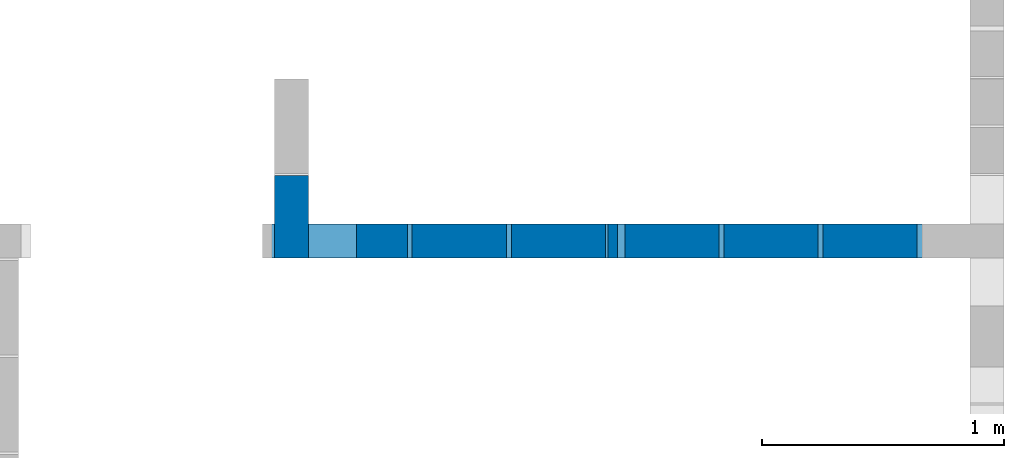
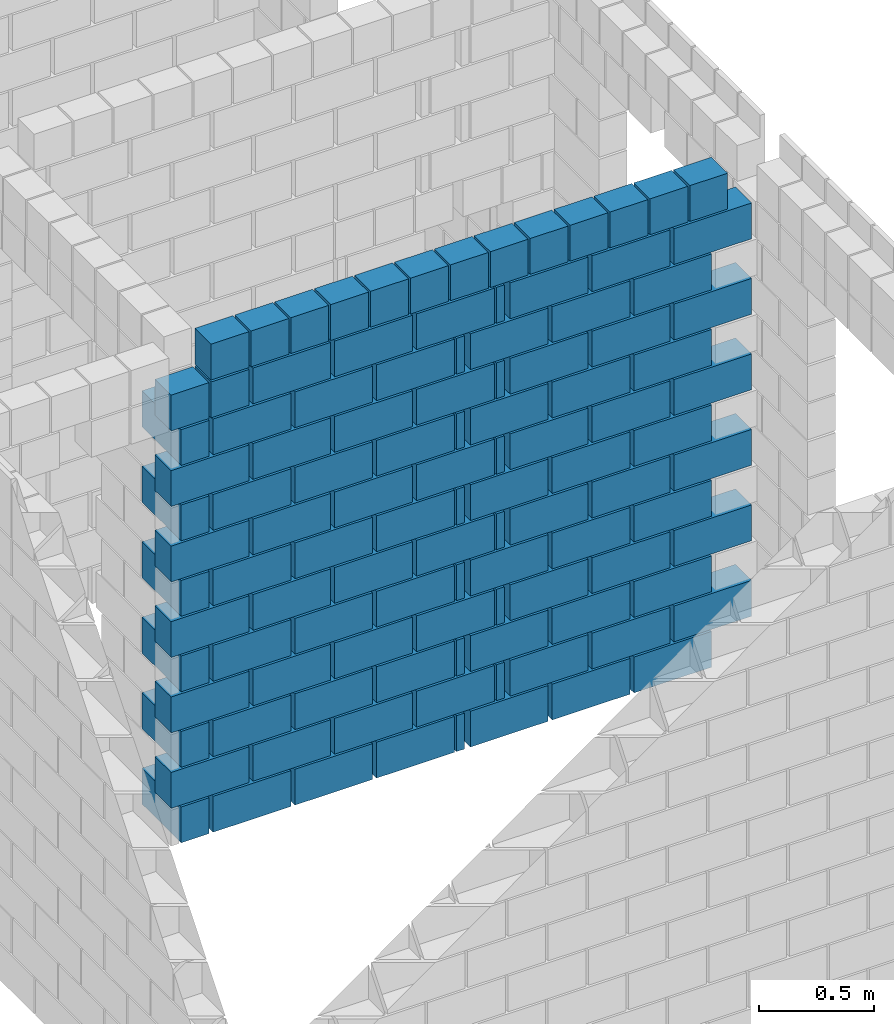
# One storey, part 5 of 12: 2 walls.
"""IFC4 building model written with IfcOpenShell, lengths in centimetres."""

from ifc_helpers import new_model, si_unit, derived_unit, frame, origin, origin_with_axes, origin_2d_with_axis, place, context, project, spatial, rectangle, extrude, element, save


model = new_model("IFC4")

# Units and contexts
model_context = context("Model", 3, precision=1e-05, world=origin_with_axes(), identifier="Body")
ifc_project = project(units=[si_unit("LENGTHUNIT", "METRE", prefix="CENTI"), si_unit("VOLUMEUNIT", "CUBIC_METRE"), si_unit("AREAUNIT", "SQUARE_METRE"), si_unit("POWERUNIT", "WATT"), si_unit("LUMINOUSFLUXUNIT", "LUMEN"), si_unit("ELECTRICCURRENTUNIT", "AMPERE"), si_unit("PRESSUREUNIT", "PASCAL", prefix="KILO"), si_unit("MASSUNIT", "GRAM", prefix="KILO"), si_unit("PLANEANGLEUNIT", "RADIAN"), derived_unit("VOLUMETRICFLOWRATEUNIT", [(si_unit("LENGTHUNIT", "METRE"), 3), (si_unit("TIMEUNIT", "SECOND"), -1)])], contexts=[model_context])

# Site, building, storey
site_placement = place(None, origin_with_axes())
site = spatial("IfcSite", under=ifc_project, at=site_placement)
building_placement = place(site_placement, origin())
building = spatial("IfcBuilding", under=site, at=building_placement)
storey_placement = place(building_placement, origin_with_axes())
storey = spatial("IfcBuildingStorey", under=building, at=storey_placement, Name="PISO", CompositionType="ELEMENT", Elevation=0.0)

# Walls
wall_1_placement = place(storey_placement, frame((411.51, 391.01, 239.0), z_axis=(0.0, 0.0, 1.0), x_axis=(1.0, 0.0, 0.0)))
element("IfcWall", 1, at=wall_1_placement, inside=storey, context=model_context, shape_type="SolidModel", body=[
    extrude(rectangle(XDim=34.0, YDim=14.0, at=origin_2d_with_axis()), frame((-7.5, 0.0, -239.0), z_axis=(0.0, 0.0, 1.0), x_axis=(0.0, 1.0, 0.0)), (0.0, 0.0, 1.0), 19.0),
    extrude(rectangle(XDim=39.0, YDim=14.0, at=origin_2d_with_axis()), frame((0.0, -10.0, -219.0), z_axis=(0.0, 0.0, 1.0), x_axis=(-1.0, 0.0, 0.0)), (0.0, 0.0, 1.0), 19.0),
    extrude(rectangle(XDim=34.0, YDim=14.0, at=origin_2d_with_axis()), frame((-7.5, 0.0, -199.0), z_axis=(0.0, 0.0, 1.0), x_axis=(0.0, 1.0, 0.0)), (0.0, 0.0, 1.0), 19.0),
    extrude(rectangle(XDim=39.0, YDim=14.0, at=origin_2d_with_axis()), frame((0.0, -10.0, -179.0), z_axis=(0.0, 0.0, 1.0), x_axis=(-1.0, 0.0, 0.0)), (0.0, 0.0, 1.0), 19.0),
    extrude(rectangle(XDim=34.0, YDim=14.0, at=origin_2d_with_axis()), frame((-7.5, 0.0, -159.0), z_axis=(0.0, 0.0, 1.0), x_axis=(0.0, 1.0, 0.0)), (0.0, 0.0, 1.0), 19.0),
    extrude(rectangle(XDim=39.0, YDim=14.0, at=origin_2d_with_axis()), frame((0.0, -10.0, -139.0), z_axis=(0.0, 0.0, 1.0), x_axis=(-1.0, 0.0, 0.0)), (0.0, 0.0, 1.0), 19.0),
    extrude(rectangle(XDim=34.0, YDim=14.0, at=origin_2d_with_axis()), frame((-7.5, 0.0, -119.0), z_axis=(0.0, 0.0, 1.0), x_axis=(0.0, 1.0, 0.0)), (0.0, 0.0, 1.0), 19.0),
    extrude(rectangle(XDim=39.0, YDim=14.0, at=origin_2d_with_axis()), frame((0.0, -10.0, -99.0), z_axis=(0.0, 0.0, 1.0), x_axis=(-1.0, 0.0, 0.0)), (0.0, 0.0, 1.0), 19.0),
    extrude(rectangle(XDim=34.0, YDim=14.0, at=origin_2d_with_axis()), frame((-7.5, 0.0, -79.0), z_axis=(0.0, 0.0, 1.0), x_axis=(0.0, 1.0, 0.0)), (0.0, 0.0, 1.0), 19.0),
    extrude(rectangle(XDim=39.0, YDim=14.0, at=origin_2d_with_axis()), frame((0.0, -10.0, -59.0), z_axis=(0.0, 0.0, 1.0), x_axis=(-1.0, 0.0, 0.0)), (0.0, 0.0, 1.0), 19.0),
    extrude(rectangle(XDim=34.0, YDim=14.0, at=origin_2d_with_axis()), frame((-7.5, 0.0, -39.0), z_axis=(0.0, 0.0, 1.0), x_axis=(0.0, 1.0, 0.0)), (0.0, 0.0, 1.0), 19.0),
    extrude(rectangle(XDim=19.0, YDim=14.0, at=origin_2d_with_axis()), frame((-10.0, -10.0, -19.0), z_axis=(0.0, 0.0, 1.0), x_axis=(-1.0, 0.0, 0.0)), (0.0, 0.0, 1.0), 19.0),
])
wall_2_placement = place(storey_placement, frame((547.51, 381.01, 259.0), z_axis=(0.0, 0.0, 1.0), x_axis=(1.0, 0.0, 0.0)))
element("IfcWall", 2, at=wall_2_placement, inside=storey, Name="PAR-PISO-6", context=model_context, shape_type="SolidModel", body=[
    extrude(rectangle(XDim=39.0, YDim=14.0, at=origin_2d_with_axis()), frame((-115.0, 0.0, -259.0), z_axis=(0.0, 0.0, 1.0), x_axis=(1.0, 0.0, 0.0)), (0.0, 0.0, 1.0), 19.0),
    extrude(rectangle(XDim=39.0, YDim=14.0, at=origin_2d_with_axis()), frame((-74.0, 0.0, -259.0), z_axis=(0.0, 0.0, 1.0), x_axis=(1.0, 0.0, 0.0)), (0.0, 0.0, 1.0), 19.0),
    extrude(rectangle(XDim=39.0, YDim=14.0, at=origin_2d_with_axis()), frame((-33.0, 0.0, -259.0), z_axis=(0.0, 0.0, 1.0), x_axis=(1.0, 0.0, 0.0)), (0.0, 0.0, 1.0), 19.0),
    extrude(rectangle(XDim=39.0, YDim=14.0, at=origin_2d_with_axis()), frame((14.0, 0.0, -259.0), z_axis=(0.0, 0.0, 1.0), x_axis=(1.0, 0.0, 0.0)), (0.0, 0.0, 1.0), 19.0),
    extrude(rectangle(XDim=39.0, YDim=14.0, at=origin_2d_with_axis()), frame((55.0, 0.0, -259.0), z_axis=(0.0, 0.0, 1.0), x_axis=(1.0, 0.0, 0.0)), (0.0, 0.0, 1.0), 19.0),
    extrude(rectangle(XDim=39.0, YDim=14.0, at=origin_2d_with_axis()), frame((96.0, 0.0, -259.0), z_axis=(0.0, 0.0, 1.0), x_axis=(1.0, 0.0, 0.0)), (0.0, 0.0, 1.0), 19.0),
    extrude(rectangle(XDim=4.0, YDim=14.0, at=origin_2d_with_axis()), frame((-10.5, 0.0, -259.0), z_axis=(0.0, 0.0, 1.0), x_axis=(1.0, 0.0, 0.0)), (0.0, 0.0, 1.0), 19.0),
    extrude(rectangle(XDim=39.0, YDim=14.0, at=origin_2d_with_axis()), frame((-95.0, 0.0, -239.0), z_axis=(0.0, 0.0, 1.0), x_axis=(1.0, 0.0, 0.0)), (0.0, 0.0, 1.0), 19.0),
    extrude(rectangle(XDim=39.0, YDim=14.0, at=origin_2d_with_axis()), frame((-54.0, 0.0, -239.0), z_axis=(0.0, 0.0, 1.0), x_axis=(1.0, 0.0, 0.0)), (0.0, 0.0, 1.0), 19.0),
    extrude(rectangle(XDim=39.0, YDim=14.0, at=origin_2d_with_axis()), frame((-13.0, 0.0, -239.0), z_axis=(0.0, 0.0, 1.0), x_axis=(1.0, 0.0, 0.0)), (0.0, 0.0, 1.0), 19.0),
    extrude(rectangle(XDim=39.0, YDim=14.0, at=origin_2d_with_axis()), frame((34.0, 0.0, -239.0), z_axis=(0.0, 0.0, 1.0), x_axis=(1.0, 0.0, 0.0)), (0.0, 0.0, 1.0), 19.0),
    extrude(rectangle(XDim=39.0, YDim=14.0, at=origin_2d_with_axis()), frame((75.0, 0.0, -239.0), z_axis=(0.0, 0.0, 1.0), x_axis=(1.0, 0.0, 0.0)), (0.0, 0.0, 1.0), 19.0),
    extrude(rectangle(XDim=39.0, YDim=14.0, at=origin_2d_with_axis()), frame((116.0, 0.0, -239.0), z_axis=(0.0, 0.0, 1.0), x_axis=(1.0, 0.0, 0.0)), (0.0, 0.0, 1.0), 19.0),
    extrude(rectangle(XDim=4.0, YDim=14.0, at=origin_2d_with_axis()), frame((9.5, 0.0, -239.0), z_axis=(0.0, 0.0, 1.0), x_axis=(1.0, 0.0, 0.0)), (0.0, 0.0, 1.0), 19.0),
    extrude(rectangle(XDim=39.0, YDim=14.0, at=origin_2d_with_axis()), frame((-115.0, 0.0, -219.0), z_axis=(0.0, 0.0, 1.0), x_axis=(1.0, 0.0, 0.0)), (0.0, 0.0, 1.0), 19.0),
    extrude(rectangle(XDim=39.0, YDim=14.0, at=origin_2d_with_axis()), frame((-74.0, 0.0, -219.0), z_axis=(0.0, 0.0, 1.0), x_axis=(1.0, 0.0, 0.0)), (0.0, 0.0, 1.0), 19.0),
    extrude(rectangle(XDim=39.0, YDim=14.0, at=origin_2d_with_axis()), frame((-33.0, 0.0, -219.0), z_axis=(0.0, 0.0, 1.0), x_axis=(1.0, 0.0, 0.0)), (0.0, 0.0, 1.0), 19.0),
    extrude(rectangle(XDim=39.0, YDim=14.0, at=origin_2d_with_axis()), frame((14.0, 0.0, -219.0), z_axis=(0.0, 0.0, 1.0), x_axis=(1.0, 0.0, 0.0)), (0.0, 0.0, 1.0), 19.0),
    extrude(rectangle(XDim=39.0, YDim=14.0, at=origin_2d_with_axis()), frame((55.0, 0.0, -219.0), z_axis=(0.0, 0.0, 1.0), x_axis=(1.0, 0.0, 0.0)), (0.0, 0.0, 1.0), 19.0),
    extrude(rectangle(XDim=39.0, YDim=14.0, at=origin_2d_with_axis()), frame((96.0, 0.0, -219.0), z_axis=(0.0, 0.0, 1.0), x_axis=(1.0, 0.0, 0.0)), (0.0, 0.0, 1.0), 19.0),
    extrude(rectangle(XDim=4.0, YDim=14.0, at=origin_2d_with_axis()), frame((-10.5, 0.0, -219.0), z_axis=(0.0, 0.0, 1.0), x_axis=(1.0, 0.0, 0.0)), (0.0, 0.0, 1.0), 19.0),
    extrude(rectangle(XDim=39.0, YDim=14.0, at=origin_2d_with_axis()), frame((-95.0, 0.0, -199.0), z_axis=(0.0, 0.0, 1.0), x_axis=(1.0, 0.0, 0.0)), (0.0, 0.0, 1.0), 19.0),
    extrude(rectangle(XDim=39.0, YDim=14.0, at=origin_2d_with_axis()), frame((-54.0, 0.0, -199.0), z_axis=(0.0, 0.0, 1.0), x_axis=(1.0, 0.0, 0.0)), (0.0, 0.0, 1.0), 19.0),
    extrude(rectangle(XDim=39.0, YDim=14.0, at=origin_2d_with_axis()), frame((-13.0, 0.0, -199.0), z_axis=(0.0, 0.0, 1.0), x_axis=(1.0, 0.0, 0.0)), (0.0, 0.0, 1.0), 19.0),
    extrude(rectangle(XDim=39.0, YDim=14.0, at=origin_2d_with_axis()), frame((34.0, 0.0, -199.0), z_axis=(0.0, 0.0, 1.0), x_axis=(1.0, 0.0, 0.0)), (0.0, 0.0, 1.0), 19.0),
    extrude(rectangle(XDim=39.0, YDim=14.0, at=origin_2d_with_axis()), frame((75.0, 0.0, -199.0), z_axis=(0.0, 0.0, 1.0), x_axis=(1.0, 0.0, 0.0)), (0.0, 0.0, 1.0), 19.0),
    extrude(rectangle(XDim=39.0, YDim=14.0, at=origin_2d_with_axis()), frame((116.0, 0.0, -199.0), z_axis=(0.0, 0.0, 1.0), x_axis=(1.0, 0.0, 0.0)), (0.0, 0.0, 1.0), 19.0),
    extrude(rectangle(XDim=4.0, YDim=14.0, at=origin_2d_with_axis()), frame((9.5, 0.0, -199.0), z_axis=(0.0, 0.0, 1.0), x_axis=(1.0, 0.0, 0.0)), (0.0, 0.0, 1.0), 19.0),
    extrude(rectangle(XDim=39.0, YDim=14.0, at=origin_2d_with_axis()), frame((-115.0, 0.0, -179.0), z_axis=(0.0, 0.0, 1.0), x_axis=(1.0, 0.0, 0.0)), (0.0, 0.0, 1.0), 19.0),
    extrude(rectangle(XDim=39.0, YDim=14.0, at=origin_2d_with_axis()), frame((-74.0, 0.0, -179.0), z_axis=(0.0, 0.0, 1.0), x_axis=(1.0, 0.0, 0.0)), (0.0, 0.0, 1.0), 19.0),
    extrude(rectangle(XDim=39.0, YDim=14.0, at=origin_2d_with_axis()), frame((-33.0, 0.0, -179.0), z_axis=(0.0, 0.0, 1.0), x_axis=(1.0, 0.0, 0.0)), (0.0, 0.0, 1.0), 19.0),
    extrude(rectangle(XDim=39.0, YDim=14.0, at=origin_2d_with_axis()), frame((14.0, 0.0, -179.0), z_axis=(0.0, 0.0, 1.0), x_axis=(1.0, 0.0, 0.0)), (0.0, 0.0, 1.0), 19.0),
    extrude(rectangle(XDim=39.0, YDim=14.0, at=origin_2d_with_axis()), frame((55.0, 0.0, -179.0), z_axis=(0.0, 0.0, 1.0), x_axis=(1.0, 0.0, 0.0)), (0.0, 0.0, 1.0), 19.0),
    extrude(rectangle(XDim=39.0, YDim=14.0, at=origin_2d_with_axis()), frame((96.0, 0.0, -179.0), z_axis=(0.0, 0.0, 1.0), x_axis=(1.0, 0.0, 0.0)), (0.0, 0.0, 1.0), 19.0),
    extrude(rectangle(XDim=4.0, YDim=14.0, at=origin_2d_with_axis()), frame((-10.5, 0.0, -179.0), z_axis=(0.0, 0.0, 1.0), x_axis=(1.0, 0.0, 0.0)), (0.0, 0.0, 1.0), 19.0),
    extrude(rectangle(XDim=39.0, YDim=14.0, at=origin_2d_with_axis()), frame((-95.0, 0.0, -159.0), z_axis=(0.0, 0.0, 1.0), x_axis=(1.0, 0.0, 0.0)), (0.0, 0.0, 1.0), 19.0),
    extrude(rectangle(XDim=39.0, YDim=14.0, at=origin_2d_with_axis()), frame((-54.0, 0.0, -159.0), z_axis=(0.0, 0.0, 1.0), x_axis=(1.0, 0.0, 0.0)), (0.0, 0.0, 1.0), 19.0),
    extrude(rectangle(XDim=39.0, YDim=14.0, at=origin_2d_with_axis()), frame((-13.0, 0.0, -159.0), z_axis=(0.0, 0.0, 1.0), x_axis=(1.0, 0.0, 0.0)), (0.0, 0.0, 1.0), 19.0),
    extrude(rectangle(XDim=39.0, YDim=14.0, at=origin_2d_with_axis()), frame((34.0, 0.0, -159.0), z_axis=(0.0, 0.0, 1.0), x_axis=(1.0, 0.0, 0.0)), (0.0, 0.0, 1.0), 19.0),
    extrude(rectangle(XDim=39.0, YDim=14.0, at=origin_2d_with_axis()), frame((75.0, 0.0, -159.0), z_axis=(0.0, 0.0, 1.0), x_axis=(1.0, 0.0, 0.0)), (0.0, 0.0, 1.0), 19.0),
    extrude(rectangle(XDim=39.0, YDim=14.0, at=origin_2d_with_axis()), frame((116.0, 0.0, -159.0), z_axis=(0.0, 0.0, 1.0), x_axis=(1.0, 0.0, 0.0)), (0.0, 0.0, 1.0), 19.0),
    extrude(rectangle(XDim=4.0, YDim=14.0, at=origin_2d_with_axis()), frame((9.5, 0.0, -159.0), z_axis=(0.0, 0.0, 1.0), x_axis=(1.0, 0.0, 0.0)), (0.0, 0.0, 1.0), 19.0),
    extrude(rectangle(XDim=39.0, YDim=14.0, at=origin_2d_with_axis()), frame((-115.0, 0.0, -139.0), z_axis=(0.0, 0.0, 1.0), x_axis=(1.0, 0.0, 0.0)), (0.0, 0.0, 1.0), 19.0),
    extrude(rectangle(XDim=39.0, YDim=14.0, at=origin_2d_with_axis()), frame((-74.0, 0.0, -139.0), z_axis=(0.0, 0.0, 1.0), x_axis=(1.0, 0.0, 0.0)), (0.0, 0.0, 1.0), 19.0),
    extrude(rectangle(XDim=39.0, YDim=14.0, at=origin_2d_with_axis()), frame((-33.0, 0.0, -139.0), z_axis=(0.0, 0.0, 1.0), x_axis=(1.0, 0.0, 0.0)), (0.0, 0.0, 1.0), 19.0),
    extrude(rectangle(XDim=39.0, YDim=14.0, at=origin_2d_with_axis()), frame((14.0, 0.0, -139.0), z_axis=(0.0, 0.0, 1.0), x_axis=(1.0, 0.0, 0.0)), (0.0, 0.0, 1.0), 19.0),
    extrude(rectangle(XDim=39.0, YDim=14.0, at=origin_2d_with_axis()), frame((55.0, 0.0, -139.0), z_axis=(0.0, 0.0, 1.0), x_axis=(1.0, 0.0, 0.0)), (0.0, 0.0, 1.0), 19.0),
    extrude(rectangle(XDim=39.0, YDim=14.0, at=origin_2d_with_axis()), frame((96.0, 0.0, -139.0), z_axis=(0.0, 0.0, 1.0), x_axis=(1.0, 0.0, 0.0)), (0.0, 0.0, 1.0), 19.0),
    extrude(rectangle(XDim=4.0, YDim=14.0, at=origin_2d_with_axis()), frame((-10.5, 0.0, -139.0), z_axis=(0.0, 0.0, 1.0), x_axis=(1.0, 0.0, 0.0)), (0.0, 0.0, 1.0), 19.0),
    extrude(rectangle(XDim=39.0, YDim=14.0, at=origin_2d_with_axis()), frame((-95.0, 0.0, -119.0), z_axis=(0.0, 0.0, 1.0), x_axis=(1.0, 0.0, 0.0)), (0.0, 0.0, 1.0), 19.0),
    extrude(rectangle(XDim=39.0, YDim=14.0, at=origin_2d_with_axis()), frame((-54.0, 0.0, -119.0), z_axis=(0.0, 0.0, 1.0), x_axis=(1.0, 0.0, 0.0)), (0.0, 0.0, 1.0), 19.0),
    extrude(rectangle(XDim=39.0, YDim=14.0, at=origin_2d_with_axis()), frame((-13.0, 0.0, -119.0), z_axis=(0.0, 0.0, 1.0), x_axis=(1.0, 0.0, 0.0)), (0.0, 0.0, 1.0), 19.0),
    extrude(rectangle(XDim=39.0, YDim=14.0, at=origin_2d_with_axis()), frame((34.0, 0.0, -119.0), z_axis=(0.0, 0.0, 1.0), x_axis=(1.0, 0.0, 0.0)), (0.0, 0.0, 1.0), 19.0),
    extrude(rectangle(XDim=39.0, YDim=14.0, at=origin_2d_with_axis()), frame((75.0, 0.0, -119.0), z_axis=(0.0, 0.0, 1.0), x_axis=(1.0, 0.0, 0.0)), (0.0, 0.0, 1.0), 19.0),
    extrude(rectangle(XDim=39.0, YDim=14.0, at=origin_2d_with_axis()), frame((116.0, 0.0, -119.0), z_axis=(0.0, 0.0, 1.0), x_axis=(1.0, 0.0, 0.0)), (0.0, 0.0, 1.0), 19.0),
    extrude(rectangle(XDim=4.0, YDim=14.0, at=origin_2d_with_axis()), frame((9.5, 0.0, -119.0), z_axis=(0.0, 0.0, 1.0), x_axis=(1.0, 0.0, 0.0)), (0.0, 0.0, 1.0), 19.0),
    extrude(rectangle(XDim=39.0, YDim=14.0, at=origin_2d_with_axis()), frame((-115.0, 0.0, -99.0), z_axis=(0.0, 0.0, 1.0), x_axis=(1.0, 0.0, 0.0)), (0.0, 0.0, 1.0), 19.0),
    extrude(rectangle(XDim=39.0, YDim=14.0, at=origin_2d_with_axis()), frame((-74.0, 0.0, -99.0), z_axis=(0.0, 0.0, 1.0), x_axis=(1.0, 0.0, 0.0)), (0.0, 0.0, 1.0), 19.0),
    extrude(rectangle(XDim=39.0, YDim=14.0, at=origin_2d_with_axis()), frame((-33.0, 0.0, -99.0), z_axis=(0.0, 0.0, 1.0), x_axis=(1.0, 0.0, 0.0)), (0.0, 0.0, 1.0), 19.0),
    extrude(rectangle(XDim=39.0, YDim=14.0, at=origin_2d_with_axis()), frame((14.0, 0.0, -99.0), z_axis=(0.0, 0.0, 1.0), x_axis=(1.0, 0.0, 0.0)), (0.0, 0.0, 1.0), 19.0),
    extrude(rectangle(XDim=39.0, YDim=14.0, at=origin_2d_with_axis()), frame((55.0, 0.0, -99.0), z_axis=(0.0, 0.0, 1.0), x_axis=(1.0, 0.0, 0.0)), (0.0, 0.0, 1.0), 19.0),
    extrude(rectangle(XDim=39.0, YDim=14.0, at=origin_2d_with_axis()), frame((96.0, 0.0, -99.0), z_axis=(0.0, 0.0, 1.0), x_axis=(1.0, 0.0, 0.0)), (0.0, 0.0, 1.0), 19.0),
    extrude(rectangle(XDim=4.0, YDim=14.0, at=origin_2d_with_axis()), frame((-10.5, 0.0, -99.0), z_axis=(0.0, 0.0, 1.0), x_axis=(1.0, 0.0, 0.0)), (0.0, 0.0, 1.0), 19.0),
    extrude(rectangle(XDim=39.0, YDim=14.0, at=origin_2d_with_axis()), frame((-95.0, 0.0, -79.0), z_axis=(0.0, 0.0, 1.0), x_axis=(1.0, 0.0, 0.0)), (0.0, 0.0, 1.0), 19.0),
    extrude(rectangle(XDim=39.0, YDim=14.0, at=origin_2d_with_axis()), frame((-54.0, 0.0, -79.0), z_axis=(0.0, 0.0, 1.0), x_axis=(1.0, 0.0, 0.0)), (0.0, 0.0, 1.0), 19.0),
    extrude(rectangle(XDim=39.0, YDim=14.0, at=origin_2d_with_axis()), frame((-13.0, 0.0, -79.0), z_axis=(0.0, 0.0, 1.0), x_axis=(1.0, 0.0, 0.0)), (0.0, 0.0, 1.0), 19.0),
    extrude(rectangle(XDim=39.0, YDim=14.0, at=origin_2d_with_axis()), frame((34.0, 0.0, -79.0), z_axis=(0.0, 0.0, 1.0), x_axis=(1.0, 0.0, 0.0)), (0.0, 0.0, 1.0), 19.0),
    extrude(rectangle(XDim=39.0, YDim=14.0, at=origin_2d_with_axis()), frame((75.0, 0.0, -79.0), z_axis=(0.0, 0.0, 1.0), x_axis=(1.0, 0.0, 0.0)), (0.0, 0.0, 1.0), 19.0),
    extrude(rectangle(XDim=39.0, YDim=14.0, at=origin_2d_with_axis()), frame((116.0, 0.0, -79.0), z_axis=(0.0, 0.0, 1.0), x_axis=(1.0, 0.0, 0.0)), (0.0, 0.0, 1.0), 19.0),
    extrude(rectangle(XDim=4.0, YDim=14.0, at=origin_2d_with_axis()), frame((9.5, 0.0, -79.0), z_axis=(0.0, 0.0, 1.0), x_axis=(1.0, 0.0, 0.0)), (0.0, 0.0, 1.0), 19.0),
    extrude(rectangle(XDim=39.0, YDim=14.0, at=origin_2d_with_axis()), frame((-115.0, 0.0, -59.0), z_axis=(0.0, 0.0, 1.0), x_axis=(1.0, 0.0, 0.0)), (0.0, 0.0, 1.0), 19.0),
    extrude(rectangle(XDim=39.0, YDim=14.0, at=origin_2d_with_axis()), frame((-74.0, 0.0, -59.0), z_axis=(0.0, 0.0, 1.0), x_axis=(1.0, 0.0, 0.0)), (0.0, 0.0, 1.0), 19.0),
    extrude(rectangle(XDim=39.0, YDim=14.0, at=origin_2d_with_axis()), frame((-33.0, 0.0, -59.0), z_axis=(0.0, 0.0, 1.0), x_axis=(1.0, 0.0, 0.0)), (0.0, 0.0, 1.0), 19.0),
    extrude(rectangle(XDim=39.0, YDim=14.0, at=origin_2d_with_axis()), frame((14.0, 0.0, -59.0), z_axis=(0.0, 0.0, 1.0), x_axis=(1.0, 0.0, 0.0)), (0.0, 0.0, 1.0), 19.0),
    extrude(rectangle(XDim=39.0, YDim=14.0, at=origin_2d_with_axis()), frame((55.0, 0.0, -59.0), z_axis=(0.0, 0.0, 1.0), x_axis=(1.0, 0.0, 0.0)), (0.0, 0.0, 1.0), 19.0),
    extrude(rectangle(XDim=39.0, YDim=14.0, at=origin_2d_with_axis()), frame((96.0, 0.0, -59.0), z_axis=(0.0, 0.0, 1.0), x_axis=(1.0, 0.0, 0.0)), (0.0, 0.0, 1.0), 19.0),
    extrude(rectangle(XDim=4.0, YDim=14.0, at=origin_2d_with_axis()), frame((-10.5, 0.0, -59.0), z_axis=(0.0, 0.0, 1.0), x_axis=(1.0, 0.0, 0.0)), (0.0, 0.0, 1.0), 19.0),
    extrude(rectangle(XDim=39.0, YDim=14.0, at=origin_2d_with_axis()), frame((-95.0, 0.0, -39.0), z_axis=(0.0, 0.0, 1.0), x_axis=(1.0, 0.0, 0.0)), (0.0, 0.0, 1.0), 19.0),
    extrude(rectangle(XDim=39.0, YDim=14.0, at=origin_2d_with_axis()), frame((-54.0, 0.0, -39.0), z_axis=(0.0, 0.0, 1.0), x_axis=(1.0, 0.0, 0.0)), (0.0, 0.0, 1.0), 19.0),
    extrude(rectangle(XDim=39.0, YDim=14.0, at=origin_2d_with_axis()), frame((-13.0, 0.0, -39.0), z_axis=(0.0, 0.0, 1.0), x_axis=(1.0, 0.0, 0.0)), (0.0, 0.0, 1.0), 19.0),
    extrude(rectangle(XDim=39.0, YDim=14.0, at=origin_2d_with_axis()), frame((34.0, 0.0, -39.0), z_axis=(0.0, 0.0, 1.0), x_axis=(1.0, 0.0, 0.0)), (0.0, 0.0, 1.0), 19.0),
    extrude(rectangle(XDim=39.0, YDim=14.0, at=origin_2d_with_axis()), frame((75.0, 0.0, -39.0), z_axis=(0.0, 0.0, 1.0), x_axis=(1.0, 0.0, 0.0)), (0.0, 0.0, 1.0), 19.0),
    extrude(rectangle(XDim=39.0, YDim=14.0, at=origin_2d_with_axis()), frame((116.0, 0.0, -39.0), z_axis=(0.0, 0.0, 1.0), x_axis=(1.0, 0.0, 0.0)), (0.0, 0.0, 1.0), 19.0),
    extrude(rectangle(XDim=4.0, YDim=14.0, at=origin_2d_with_axis()), frame((9.5, 0.0, -39.0), z_axis=(0.0, 0.0, 1.0), x_axis=(1.0, 0.0, 0.0)), (0.0, 0.0, 1.0), 19.0),
    extrude(rectangle(XDim=19.0, YDim=14.0, at=origin_2d_with_axis()), frame((-126.0, 0.0, -39.0), z_axis=(0.0, 0.0, 1.0), x_axis=(1.0, 0.0, 0.0)), (0.0, 0.0, 1.0), 19.0),
    extrude(rectangle(XDim=19.0, YDim=14.0, at=origin_2d_with_axis()), frame((-126.0, 0.0, -19.0), z_axis=(0.0, 0.0, 1.0), x_axis=(1.0, 0.0, 0.0)), (0.0, 0.0, 1.0), 19.0),
    extrude(rectangle(XDim=19.0, YDim=14.0, at=origin_2d_with_axis()), frame((-106.0, 0.0, -19.0), z_axis=(0.0, 0.0, 1.0), x_axis=(1.0, 0.0, 0.0)), (0.0, 0.0, 1.0), 19.0),
    extrude(rectangle(XDim=19.0, YDim=14.0, at=origin_2d_with_axis()), frame((-86.0, 0.0, -19.0), z_axis=(0.0, 0.0, 1.0), x_axis=(1.0, 0.0, 0.0)), (0.0, 0.0, 1.0), 19.0),
    extrude(rectangle(XDim=19.0, YDim=14.0, at=origin_2d_with_axis()), frame((-66.0, 0.0, -19.0), z_axis=(0.0, 0.0, 1.0), x_axis=(1.0, 0.0, 0.0)), (0.0, 0.0, 1.0), 19.0),
    extrude(rectangle(XDim=19.0, YDim=14.0, at=origin_2d_with_axis()), frame((-46.0, 0.0, -19.0), z_axis=(0.0, 0.0, 1.0), x_axis=(1.0, 0.0, 0.0)), (0.0, 0.0, 1.0), 19.0),
    extrude(rectangle(XDim=19.0, YDim=14.0, at=origin_2d_with_axis()), frame((-26.0, 0.0, -19.0), z_axis=(0.0, 0.0, 1.0), x_axis=(1.0, 0.0, 0.0)), (0.0, 0.0, 1.0), 19.0),
    extrude(rectangle(XDim=19.0, YDim=14.0, at=origin_2d_with_axis()), frame((-6.0, 0.0, -19.0), z_axis=(0.0, 0.0, 1.0), x_axis=(1.0, 0.0, 0.0)), (0.0, 0.0, 1.0), 19.0),
    extrude(rectangle(XDim=19.0, YDim=14.0, at=origin_2d_with_axis()), frame((14.0, 0.0, -19.0), z_axis=(0.0, 0.0, 1.0), x_axis=(1.0, 0.0, 0.0)), (0.0, 0.0, 1.0), 19.0),
    extrude(rectangle(XDim=19.0, YDim=14.0, at=origin_2d_with_axis()), frame((34.0, 0.0, -19.0), z_axis=(0.0, 0.0, 1.0), x_axis=(1.0, 0.0, 0.0)), (0.0, 0.0, 1.0), 19.0),
    extrude(rectangle(XDim=19.0, YDim=14.0, at=origin_2d_with_axis()), frame((54.0, 0.0, -19.0), z_axis=(0.0, 0.0, 1.0), x_axis=(1.0, 0.0, 0.0)), (0.0, 0.0, 1.0), 19.0),
    extrude(rectangle(XDim=19.0, YDim=14.0, at=origin_2d_with_axis()), frame((74.0, 0.0, -19.0), z_axis=(0.0, 0.0, 1.0), x_axis=(1.0, 0.0, 0.0)), (0.0, 0.0, 1.0), 19.0),
    extrude(rectangle(XDim=19.0, YDim=14.0, at=origin_2d_with_axis()), frame((94.0, 0.0, -19.0), z_axis=(0.0, 0.0, 1.0), x_axis=(1.0, 0.0, 0.0)), (0.0, 0.0, 1.0), 19.0),
    extrude(rectangle(XDim=19.0, YDim=14.0, at=origin_2d_with_axis()), frame((114.0, 0.0, -19.0), z_axis=(0.0, 0.0, 1.0), x_axis=(1.0, 0.0, 0.0)), (0.0, 0.0, 1.0), 19.0),
])

save(model, "model.ifc")
